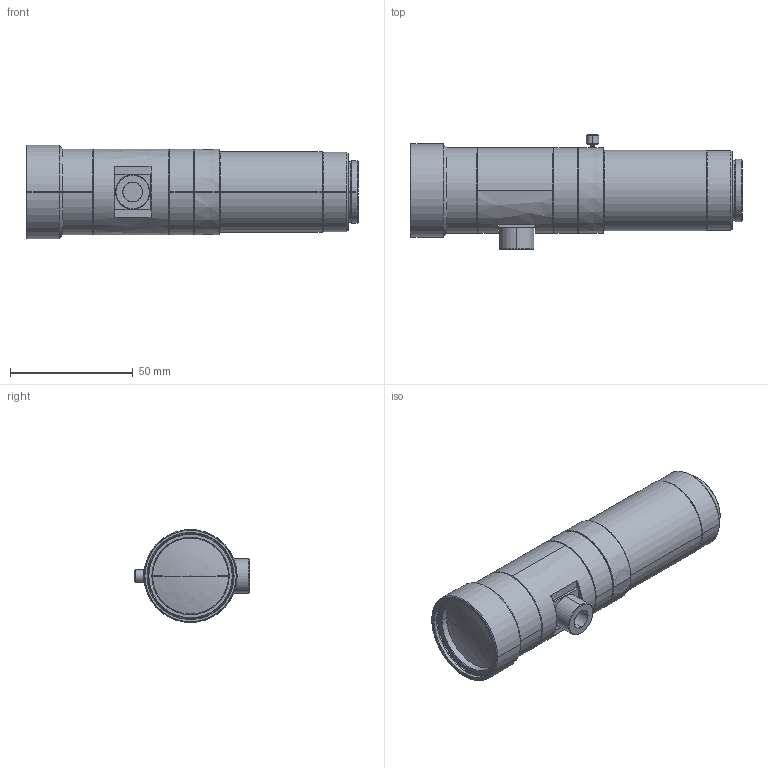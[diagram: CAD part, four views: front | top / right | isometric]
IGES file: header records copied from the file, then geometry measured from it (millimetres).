
Start section: SolidWorks IGES file using analytic representation for surfaces
Global section: file name: C:\Users\matsui_VST\Desktop\AutoCAD図面DATA\・THV15-110CO  (3Dモデル) ▲\VS-THV1.5-110CO_S.IGS; native system: SolidWorks 2021; preprocessor: SolidWorks 2021; author: matsui_VST; date: 210825.144842; units: millimetre
Bounding box: 135.42 x 46.8 x 38 mm (x, y, z)
Surface area: 27927 mm2 (no closed solid volume)
Topology: 0 solids, 0 shells, 159 faces, 2762 edges, 2760 vertices
Faces by surface type: revolution 126, bspline 33
